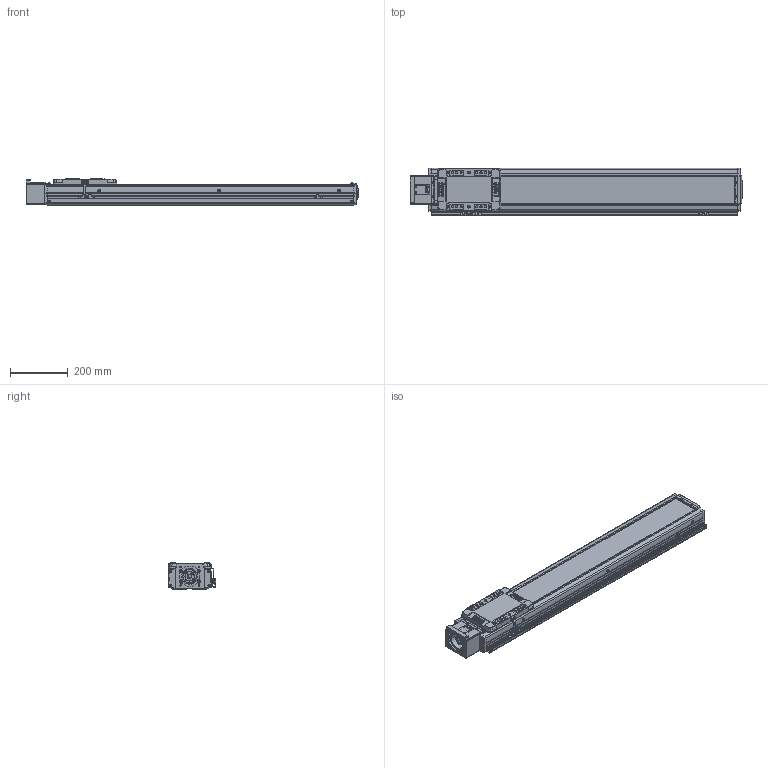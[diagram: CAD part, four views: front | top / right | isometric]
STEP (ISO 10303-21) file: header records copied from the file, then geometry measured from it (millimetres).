
FILE_DESCRIPTION(('STEP AP214'),'1');
FILE_NAME('Z:/Web/3D/SAN150/2013.04 (STP.)/SAN150ㅁㅁ-800S+3SR.stp','2013-05-07T11:02:06',(' '),(' '),'Spatial InterOp 3D',' ',' ');
FILE_SCHEMA(('automotive_design'));
Length unit declared in the file: millimetre
Products named in the file (95): SLBL-SAN150; SLCV-SAN150; FHCS M4.0 x 8.0; BHCS M4.0 x 10.0; SFX-SAN150; RRCV-SAN150; FRBL-SAN150; Spacer; RN15; FRCV-SAN150; Screw 20; BASE-SAN150-000L ; SUS COVER; 스크루 : Round - M5.0 x 6.0; BHCS M3.0 x 6.0; SSFX-SAN65; CPLCV-SAN65; SDWA47C(2); SDWA47C(3-1); SDWA47C(3); SDWA47C(1); SDWA47C(4); SDWA47C(5); MTHZ-SAN150-80; M3.0 x 6.0; SRL-16x17-360L; SGD-SAN150; EE-SX674; SBK-SX674-352; 스크루 : Round - M3.0 x 6.0
Bounding box: 1149 x 166 x 90 mm (x, y, z)
Volume: 6431711.8 mm3; surface area: 1322978.9 mm2
Topology: 95 solids, 95 shells, 3452 faces, 8966 edges, 5800 vertices
Faces by surface type: plane 1593, cylinder 1309, cone 425, sphere 80, bspline 29, torus 16
Entity records: 139046 total; most frequent: CARTESIAN_POINT 22379, DIRECTION 19399, ORIENTED_EDGE 17684, EDGE_CURVE 8842, AXIS2_PLACEMENT_3D 7207, VERTEX_POINT 5800, LINE 4985, VECTOR 4985
